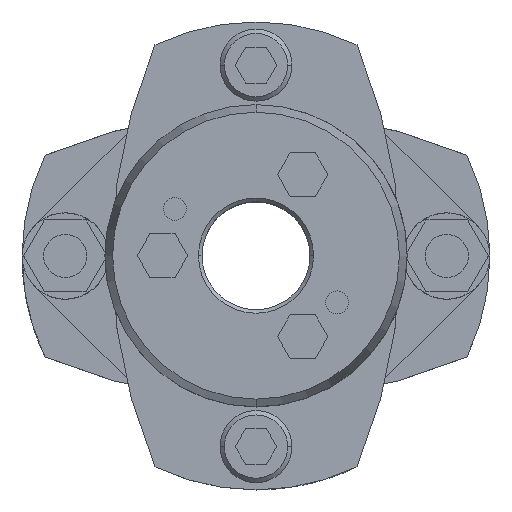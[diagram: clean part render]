
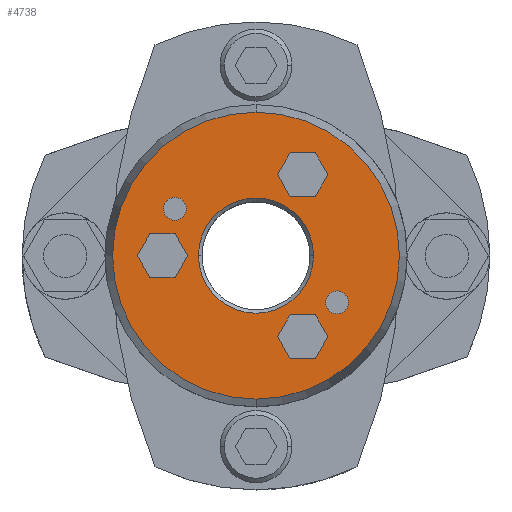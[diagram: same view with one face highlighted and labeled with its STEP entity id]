
A CAD part, top view. The second image highlights one B-rep face of the part: STEP entity #4738.
In plain terms, the highlighted planar face has unit normal (0, 0, 1).
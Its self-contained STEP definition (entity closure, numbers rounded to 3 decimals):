
#1004=CARTESIAN_POINT('',(0.,-19.928,30.75));
#1005=VERTEX_POINT('',#1004);
#1012=CARTESIAN_POINT('',(0.0,19.928,30.75));
#1013=VERTEX_POINT('',#1012);
#1014=CARTESIAN_POINT('',(0.0,0.,30.75));
#1015=DIRECTION('',(0.0,0.0,-1.0));
#1016=DIRECTION('',(0.0,-1.0,0.0));
#1017=AXIS2_PLACEMENT_3D('',#1014,#1015,#1016);
#1018=CIRCLE('',#1017,19.928);
#1019=EDGE_CURVE('',#1005,#1013,#1018,.T.);
#1114=CARTESIAN_POINT('',(-8.,0.,30.75));
#1115=VERTEX_POINT('',#1114);
#1131=CARTESIAN_POINT('',(8.,0.,30.75));
#1132=VERTEX_POINT('',#1131);
#1139=CARTESIAN_POINT('',(0.,0.,30.75));
#1140=DIRECTION('',(0.0,0.0,1.0));
#1141=DIRECTION('',(-1.0,0.0,0.0));
#1142=AXIS2_PLACEMENT_3D('',#1139,#1140,#1141);
#1143=CIRCLE('',#1142,8.0);
#1144=EDGE_CURVE('',#1132,#1115,#1143,.T.);
#1262=CARTESIAN_POINT('',(-12.858,6.5,30.75));
#1263=VERTEX_POINT('',#1262);
#1279=CARTESIAN_POINT('',(-9.658,6.5,30.75));
#1280=VERTEX_POINT('',#1279);
#1287=CARTESIAN_POINT('',(-11.258,6.5,30.75));
#1288=DIRECTION('',(0.0,0.0,-1.0));
#1289=DIRECTION('',(-1.0,0.0,0.0));
#1290=AXIS2_PLACEMENT_3D('',#1287,#1288,#1289);
#1291=CIRCLE('',#1290,1.6);
#1292=EDGE_CURVE('',#1263,#1280,#1291,.T.);
#1304=CARTESIAN_POINT('',(9.658,-6.5,30.75));
#1305=VERTEX_POINT('',#1304);
#1321=CARTESIAN_POINT('',(12.858,-6.5,30.75));
#1322=VERTEX_POINT('',#1321);
#1329=CARTESIAN_POINT('',(11.258,-6.5,30.75));
#1330=DIRECTION('',(0.0,0.0,-1.0));
#1331=DIRECTION('',(-1.0,0.0,0.0));
#1332=AXIS2_PLACEMENT_3D('',#1329,#1330,#1331);
#1333=CIRCLE('',#1332,1.6);
#1334=EDGE_CURVE('',#1305,#1322,#1333,.T.);
#3941=CARTESIAN_POINT('',(11.258,-6.5,30.75));
#3942=DIRECTION('',(0.0,0.0,-1.0));
#3943=DIRECTION('',(-1.0,0.0,0.0));
#3944=AXIS2_PLACEMENT_3D('',#3941,#3942,#3943);
#3945=CIRCLE('',#3944,1.6);
#3946=EDGE_CURVE('',#1322,#1305,#3945,.T.);
#3975=CARTESIAN_POINT('',(-11.258,6.5,30.75));
#3976=DIRECTION('',(0.0,0.0,-1.0));
#3977=DIRECTION('',(-1.0,0.0,0.0));
#3978=AXIS2_PLACEMENT_3D('',#3975,#3976,#3977);
#3979=CIRCLE('',#3978,1.6);
#3980=EDGE_CURVE('',#1280,#1263,#3979,.T.);
#4018=CARTESIAN_POINT('',(3.,-11.258,30.75));
#4019=VERTEX_POINT('',#4018);
#4026=CARTESIAN_POINT('',(4.75,-14.289,30.75));
#4027=VERTEX_POINT('',#4026);
#4028=CARTESIAN_POINT('',(4.75,-14.289,30.75));
#4029=DIRECTION('',(-0.5,0.866,0.0));
#4030=VECTOR('',#4029,3.5);
#4031=LINE('',#4028,#4030);
#4032=EDGE_CURVE('',#4027,#4019,#4031,.T.);
#4056=CARTESIAN_POINT('',(4.75,-8.227,30.75));
#4057=VERTEX_POINT('',#4056);
#4064=CARTESIAN_POINT('',(3.,-11.258,30.75));
#4065=DIRECTION('',(0.5,0.866,0.0));
#4066=VECTOR('',#4065,3.5);
#4067=LINE('',#4064,#4066);
#4068=EDGE_CURVE('',#4019,#4057,#4067,.T.);
#4087=CARTESIAN_POINT('',(8.25,-8.227,30.75));
#4088=VERTEX_POINT('',#4087);
#4095=CARTESIAN_POINT('',(4.75,-8.227,30.75));
#4096=DIRECTION('',(1.0,0.0,0.0));
#4097=VECTOR('',#4096,3.5);
#4098=LINE('',#4095,#4097);
#4099=EDGE_CURVE('',#4057,#4088,#4098,.T.);
#4118=CARTESIAN_POINT('',(10.,-11.258,30.75));
#4119=VERTEX_POINT('',#4118);
#4126=CARTESIAN_POINT('',(8.25,-8.227,30.75));
#4127=DIRECTION('',(0.5,-0.866,0.0));
#4128=VECTOR('',#4127,3.5);
#4129=LINE('',#4126,#4128);
#4130=EDGE_CURVE('',#4088,#4119,#4129,.T.);
#4149=CARTESIAN_POINT('',(8.25,-14.289,30.75));
#4150=VERTEX_POINT('',#4149);
#4157=CARTESIAN_POINT('',(10.,-11.258,30.75));
#4158=DIRECTION('',(-0.5,-0.866,0.0));
#4159=VECTOR('',#4158,3.5);
#4160=LINE('',#4157,#4159);
#4161=EDGE_CURVE('',#4119,#4150,#4160,.T.);
#4179=CARTESIAN_POINT('',(8.25,-14.289,30.75));
#4180=DIRECTION('',(-1.0,0.0,0.0));
#4181=VECTOR('',#4180,3.5);
#4182=LINE('',#4179,#4181);
#4183=EDGE_CURVE('',#4150,#4027,#4182,.T.);
#4218=CARTESIAN_POINT('',(3.,11.258,30.75));
#4219=VERTEX_POINT('',#4218);
#4226=CARTESIAN_POINT('',(4.75,8.227,30.75));
#4227=VERTEX_POINT('',#4226);
#4228=CARTESIAN_POINT('',(4.75,8.227,30.75));
#4229=DIRECTION('',(-0.5,0.866,0.0));
#4230=VECTOR('',#4229,3.5);
#4231=LINE('',#4228,#4230);
#4232=EDGE_CURVE('',#4227,#4219,#4231,.T.);
#4256=CARTESIAN_POINT('',(4.75,14.289,30.75));
#4257=VERTEX_POINT('',#4256);
#4264=CARTESIAN_POINT('',(3.,11.258,30.75));
#4265=DIRECTION('',(0.5,0.866,0.0));
#4266=VECTOR('',#4265,3.5);
#4267=LINE('',#4264,#4266);
#4268=EDGE_CURVE('',#4219,#4257,#4267,.T.);
#4287=CARTESIAN_POINT('',(8.25,14.289,30.75));
#4288=VERTEX_POINT('',#4287);
#4295=CARTESIAN_POINT('',(4.75,14.289,30.75));
#4296=DIRECTION('',(1.0,0.0,0.0));
#4297=VECTOR('',#4296,3.5);
#4298=LINE('',#4295,#4297);
#4299=EDGE_CURVE('',#4257,#4288,#4298,.T.);
#4318=CARTESIAN_POINT('',(10.,11.258,30.75));
#4319=VERTEX_POINT('',#4318);
#4326=CARTESIAN_POINT('',(8.25,14.289,30.75));
#4327=DIRECTION('',(0.5,-0.866,0.0));
#4328=VECTOR('',#4327,3.5);
#4329=LINE('',#4326,#4328);
#4330=EDGE_CURVE('',#4288,#4319,#4329,.T.);
#4349=CARTESIAN_POINT('',(8.25,8.227,30.75));
#4350=VERTEX_POINT('',#4349);
#4357=CARTESIAN_POINT('',(10.,11.258,30.75));
#4358=DIRECTION('',(-0.5,-0.866,0.0));
#4359=VECTOR('',#4358,3.5);
#4360=LINE('',#4357,#4359);
#4361=EDGE_CURVE('',#4319,#4350,#4360,.T.);
#4379=CARTESIAN_POINT('',(8.25,8.227,30.75));
#4380=DIRECTION('',(-1.0,0.0,0.0));
#4381=VECTOR('',#4380,3.5);
#4382=LINE('',#4379,#4381);
#4383=EDGE_CURVE('',#4350,#4227,#4382,.T.);
#4418=CARTESIAN_POINT('',(-16.5,0.,30.75));
#4419=VERTEX_POINT('',#4418);
#4426=CARTESIAN_POINT('',(-14.75,-3.031,30.75));
#4427=VERTEX_POINT('',#4426);
#4428=CARTESIAN_POINT('',(-14.75,-3.031,30.75));
#4429=DIRECTION('',(-0.5,0.866,0.0));
#4430=VECTOR('',#4429,3.5);
#4431=LINE('',#4428,#4430);
#4432=EDGE_CURVE('',#4427,#4419,#4431,.T.);
#4456=CARTESIAN_POINT('',(-14.75,3.031,30.75));
#4457=VERTEX_POINT('',#4456);
#4464=CARTESIAN_POINT('',(-16.5,0.,30.75));
#4465=DIRECTION('',(0.5,0.866,0.0));
#4466=VECTOR('',#4465,3.5);
#4467=LINE('',#4464,#4466);
#4468=EDGE_CURVE('',#4419,#4457,#4467,.T.);
#4487=CARTESIAN_POINT('',(-11.25,3.031,30.75));
#4488=VERTEX_POINT('',#4487);
#4495=CARTESIAN_POINT('',(-14.75,3.031,30.75));
#4496=DIRECTION('',(1.0,0.0,0.0));
#4497=VECTOR('',#4496,3.5);
#4498=LINE('',#4495,#4497);
#4499=EDGE_CURVE('',#4457,#4488,#4498,.T.);
#4518=CARTESIAN_POINT('',(-9.5,0.,30.75));
#4519=VERTEX_POINT('',#4518);
#4526=CARTESIAN_POINT('',(-11.25,3.031,30.75));
#4527=DIRECTION('',(0.5,-0.866,0.0));
#4528=VECTOR('',#4527,3.5);
#4529=LINE('',#4526,#4528);
#4530=EDGE_CURVE('',#4488,#4519,#4529,.T.);
#4549=CARTESIAN_POINT('',(-11.25,-3.031,30.75));
#4550=VERTEX_POINT('',#4549);
#4557=CARTESIAN_POINT('',(-9.5,0.,30.75));
#4558=DIRECTION('',(-0.5,-0.866,0.0));
#4559=VECTOR('',#4558,3.5);
#4560=LINE('',#4557,#4559);
#4561=EDGE_CURVE('',#4519,#4550,#4560,.T.);
#4579=CARTESIAN_POINT('',(-11.25,-3.031,30.75));
#4580=DIRECTION('',(-1.0,0.0,0.0));
#4581=VECTOR('',#4580,3.5);
#4582=LINE('',#4579,#4581);
#4583=EDGE_CURVE('',#4550,#4427,#4582,.T.);
#4675=CARTESIAN_POINT('',(0.,0.,30.75));
#4676=DIRECTION('',(0.0,0.0,1.0));
#4677=DIRECTION('',(-1.0,0.0,0.0));
#4678=AXIS2_PLACEMENT_3D('',#4675,#4676,#4677);
#4679=CIRCLE('',#4678,8.0);
#4680=EDGE_CURVE('',#1115,#1132,#4679,.T.);
#4687=CARTESIAN_POINT('',(0.,-9.964,30.75));
#4688=DIRECTION('',(0.0,0.0,1.0));
#4689=DIRECTION('',(-1.0,0.0,0.0));
#4690=AXIS2_PLACEMENT_3D('',#4687,#4688,#4689);
#4691=PLANE('',#4690);
#4692=ORIENTED_EDGE('',*,*,#1019,.F.);
#4693=CARTESIAN_POINT('',(0.0,0.,30.75));
#4694=DIRECTION('',(0.0,0.0,-1.0));
#4695=DIRECTION('',(0.0,-1.0,0.0));
#4696=AXIS2_PLACEMENT_3D('',#4693,#4694,#4695);
#4697=CIRCLE('',#4696,19.928);
#4698=EDGE_CURVE('',#1013,#1005,#4697,.T.);
#4699=ORIENTED_EDGE('',*,*,#4698,.F.);
#4700=EDGE_LOOP('',(#4692,#4699));
#4701=FACE_OUTER_BOUND('',#4700,.T.);
#4702=ORIENTED_EDGE('',*,*,#1334,.T.);
#4703=ORIENTED_EDGE('',*,*,#3946,.T.);
#4704=EDGE_LOOP('',(#4702,#4703));
#4705=FACE_BOUND('',#4704,.T.);
#4706=ORIENTED_EDGE('',*,*,#1292,.T.);
#4707=ORIENTED_EDGE('',*,*,#3980,.T.);
#4708=EDGE_LOOP('',(#4706,#4707));
#4709=FACE_BOUND('',#4708,.T.);
#4710=ORIENTED_EDGE('',*,*,#4032,.T.);
#4711=ORIENTED_EDGE('',*,*,#4068,.T.);
#4712=ORIENTED_EDGE('',*,*,#4099,.T.);
#4713=ORIENTED_EDGE('',*,*,#4130,.T.);
#4714=ORIENTED_EDGE('',*,*,#4161,.T.);
#4715=ORIENTED_EDGE('',*,*,#4183,.T.);
#4716=EDGE_LOOP('',(#4710,#4711,#4712,#4713,#4714,#4715));
#4717=FACE_BOUND('',#4716,.T.);
#4718=ORIENTED_EDGE('',*,*,#4232,.T.);
#4719=ORIENTED_EDGE('',*,*,#4268,.T.);
#4720=ORIENTED_EDGE('',*,*,#4299,.T.);
#4721=ORIENTED_EDGE('',*,*,#4330,.T.);
#4722=ORIENTED_EDGE('',*,*,#4361,.T.);
#4723=ORIENTED_EDGE('',*,*,#4383,.T.);
#4724=EDGE_LOOP('',(#4718,#4719,#4720,#4721,#4722,#4723));
#4725=FACE_BOUND('',#4724,.T.);
#4726=ORIENTED_EDGE('',*,*,#4432,.T.);
#4727=ORIENTED_EDGE('',*,*,#4468,.T.);
#4728=ORIENTED_EDGE('',*,*,#4499,.T.);
#4729=ORIENTED_EDGE('',*,*,#4530,.T.);
#4730=ORIENTED_EDGE('',*,*,#4561,.T.);
#4731=ORIENTED_EDGE('',*,*,#4583,.T.);
#4732=EDGE_LOOP('',(#4726,#4727,#4728,#4729,#4730,#4731));
#4733=FACE_BOUND('',#4732,.T.);
#4734=ORIENTED_EDGE('',*,*,#1144,.F.);
#4735=ORIENTED_EDGE('',*,*,#4680,.F.);
#4736=EDGE_LOOP('',(#4734,#4735));
#4737=FACE_BOUND('',#4736,.T.);
#4738=ADVANCED_FACE('',(#4701,#4705,#4709,#4717,#4725,#4733,#4737),#4691,.T.);
